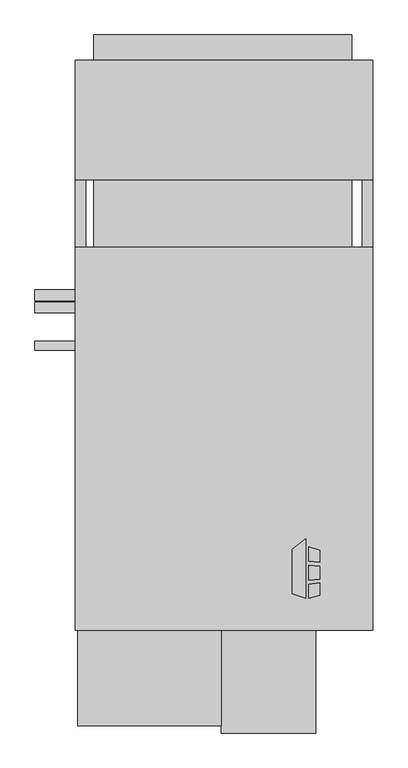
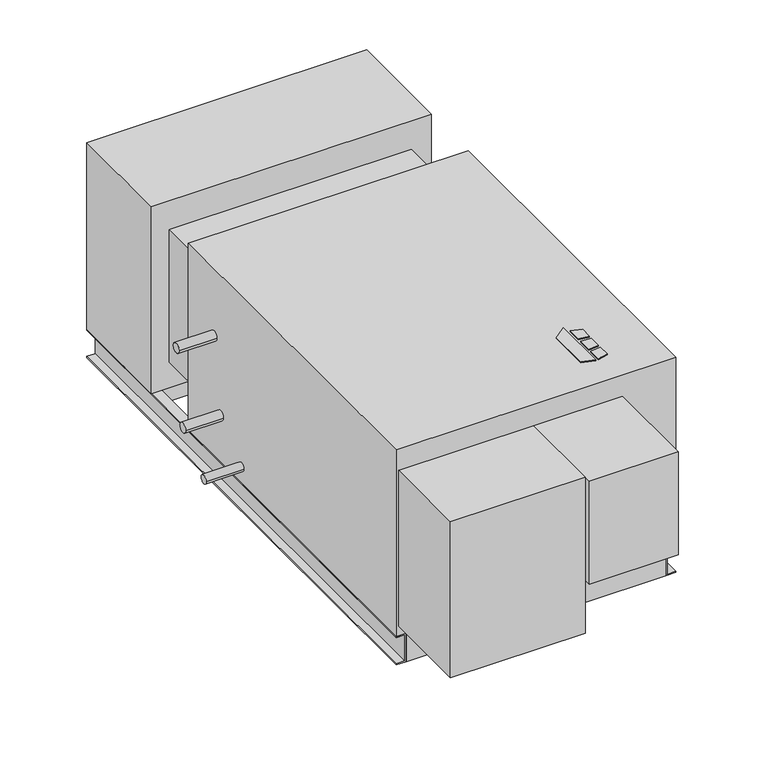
"""IFC4 building model written with IfcOpenShell, lengths in millimetres: proxy geometry, Horizontal_Direct_Drive_Blower_Coil_Unit_-_HDY_-_IEC_-_2-Pipe_Cool-EHeat_NFilterR_W-MixingBox_LH_2022 : Size 06 - 460v/60Hz/3Ph - 8 Row 6.0kW LH."""

from ifc_helpers import new_model, si_unit, point, frame, frame_2d, origin, origin_with_axes, place, context, project, spatial, polyline, circle_curve, trimmed, segment, composite_curve, outline, extrude, source, transform, mapped, element, save


def mechanical_equipment_0df3803a(model_context):
    return source(origin(), model_context, "Body", "SweptSolid", [
        extrude(outline(polyline([(-547.9980239, -229.5578476), (-515.4397272, -204.1205184), (-515.4397272, -346.075), (-547.9980239, -335.8554201), (-547.9980239, -229.5578476)])), origin_with_axes(), (0.0, 0.0, 1.0), 3.175),
        extrude(outline(polyline([(-508.6813942, -257.429852), (-508.6813942, -222.9499379), (-482.6, -231.1365115), (-482.6, -260.6322446), (-508.6813942, -257.429852)])), origin_with_axes(), (0.0, 0.0, 1.0), 3.175),
        extrude(outline(polyline([(-482.6, -339.0865115), (-508.6813942, -346.075), (-508.6813942, -312.8536996), (-482.6, -309.3118564), (-482.6, -339.0865115)])), origin_with_axes(), (0.0, 0.0, 1.0), 3.175),
        extrude(outline(polyline([(-482.6, -269.7138277), (-482.6, -300.963983), (-508.6813942, -303.705248), (-508.6813942, -267.8475378), (-482.6, -269.7138277)])), origin_with_axes(), (0.0, 0.0, 1.0), 3.175),
        extrude(outline(polyline([(-406.4, 837.565), (-406.4, 685.165), (-1022.35, 685.165), (-1022.35, 837.565), (-406.4, 837.565)])), frame((0.0, 0.0, -562.61), z_axis=(0.0, 0.0, 1.0), x_axis=(1.0, 0.0, 0.0)), (0.0, 0.0, 1.0), 60.96),
        extrude(outline(polyline([(-1022.35, 1000.125), (-406.4, 1000.125), (-406.4, 939.165), (-1022.35, 939.165), (-1022.35, 1000.125)])), frame((0.0, 0.0, -228.6), z_axis=(0.0, 0.0, 1.0), x_axis=(1.0, 0.0, 0.0)), (0.0, 0.0, 1.0), 152.4),
        extrude(outline(polyline([(-355.6, 939.165), (-355.6, 654.05), (-1066.8, 654.05), (-1066.8, 939.165), (-355.6, 939.165)])), frame((0.0, 0.0, -501.65), z_axis=(0.0, 0.0, 1.0), x_axis=(1.0, 0.0, 0.0)), (0.0, 0.0, 1.0), 501.65),
        extrude(outline(polyline([(-381.0, -396.875), (-381.0, -422.275), (-1041.4, -422.275), (-1041.4, -396.875), (-381.0, -396.875)])), frame((0.0, 0.0, -577.85), z_axis=(0.0, 0.0, 1.0), x_axis=(1.0, 0.0, 0.0)), (0.0, 0.0, 1.0), 76.2),
        extrude(outline(polyline([(-381.0, 939.165), (-381.0, 913.765), (-1041.4, 913.765), (-1041.4, 939.165), (-381.0, 939.165)])), frame((0.0, 0.0, -577.85), z_axis=(0.0, 0.0, 1.0), x_axis=(1.0, 0.0, 0.0)), (0.0, 0.0, 1.0), 76.2),
        extrude(outline(polyline([(-501.65, -1041.4), (-501.65, -1066.8), (-504.825, -1066.8), (-504.825, -1044.575), (-574.675, -1044.575), (-574.675, -1066.8), (-577.85, -1066.8), (-577.85, -1041.4), (-501.65, -1041.4)])), frame((0.0, -422.275, 0.0), z_axis=(0.0, 1.0, 0.0), x_axis=(0.0, 0.0, 1.0)), (0.0, 0.0, 1.0), 1361.44),
        extrude(outline(polyline([(-501.65, -381.0), (-577.85, -381.0), (-577.85, -355.6), (-574.675, -355.6), (-574.675, -377.825), (-504.825, -377.825), (-504.825, -355.6), (-501.65, -355.6), (-501.65, -381.0)])), frame((0.0, -422.275, 0.0), z_axis=(0.0, 1.0, 0.0), x_axis=(0.0, 0.0, 1.0)), (0.0, 0.0, 1.0), 1361.44),
        extrude(outline(composite_curve([segment(trimmed(circle_curve(frame_2d((377.825, -177.8)), 12.7), [point((365.125, -177.8))], [point((390.525, -177.8))], False, "CARTESIAN"), True, "CONTINUOUS"), segment(trimmed(circle_curve(frame_2d((377.825, -177.8)), 12.7), [point((390.525, -177.8))], [point((365.125, -177.8))], False, "CARTESIAN"), True, "CONTINUOUS")], self_intersect=False)), frame((-1163.1025559, 0.0, 0.0), z_axis=(1.0, 0.0, 0.0), x_axis=(0.0, 1.0, 0.0)), (0.0, 0.0, 1.0), 96.3025559),
        extrude(outline(composite_curve([segment(trimmed(circle_curve(frame_2d((348.9715397, -374.65)), 12.7), [point((336.2715397, -374.65))], [point((361.6715397, -374.65))], False, "CARTESIAN"), True, "CONTINUOUS"), segment(trimmed(circle_curve(frame_2d((348.9715397, -374.65)), 12.7), [point((361.6715397, -374.65))], [point((336.2715397, -374.65))], False, "CARTESIAN"), True, "CONTINUOUS")], self_intersect=False)), frame((-1163.1025559, 0.0, 0.0), z_axis=(1.0, 0.0, 0.0), x_axis=(0.0, 1.0, 0.0)), (0.0, 0.0, 1.0), 96.3025559),
        extrude(outline(composite_curve([segment(trimmed(circle_curve(frame_2d((257.175, -457.2)), 11.1125), [point((246.0625, -457.2))], [point((268.2875, -457.2))], False, "CARTESIAN"), True, "CONTINUOUS"), segment(trimmed(circle_curve(frame_2d((257.175, -457.2)), 11.1125), [point((268.2875, -457.2))], [point((246.0625, -457.2))], False, "CARTESIAN"), True, "CONTINUOUS")], self_intersect=False)), frame((-1163.1025559, 0.0, 0.0), z_axis=(1.0, 0.0, 0.0), x_axis=(0.0, 1.0, 0.0)), (0.0, 0.0, 1.0), 96.3025559),
        extrude(outline(polyline([(-355.6, 492.125), (-355.6, -422.275), (-1066.8, -422.275), (-1066.8, 492.125), (-355.6, 492.125)])), frame((0.0, 0.0, -501.65), z_axis=(0.0, 0.0, 1.0), x_axis=(1.0, 0.0, 0.0)), (0.0, 0.0, 1.0), 501.65),
        extrude(outline(polyline([(-717.55, -650.875), (-1060.45, -650.875), (-1060.45, -422.275), (-717.55, -422.275), (-717.55, -650.875)])), frame((0.0, 0.0, -476.25), z_axis=(0.0, 0.0, 1.0), x_axis=(1.0, 0.0, 0.0)), (0.0, 0.0, 1.0), 419.1),
        extrude(outline(polyline([(-1022.35, 654.05), (-406.4, 654.05), (-406.4, 492.125), (-1022.35, 492.125), (-1022.35, 654.05)])), frame((0.0, 0.0, -431.8), z_axis=(0.0, 0.0, 1.0), x_axis=(1.0, 0.0, 0.0)), (0.0, 0.0, 1.0), 355.6),
        extrude(outline(polyline([(-492.125, -668.3375), (-717.55, -668.3375), (-717.55, -422.275), (-492.125, -422.275), (-492.125, -668.3375)])), frame((0.0, 0.0, -333.375), z_axis=(0.0, 0.0, 1.0), x_axis=(1.0, 0.0, 0.0)), (0.0, 0.0, 1.0), 276.225),
    ])


if __name__ == "__main__":
    model = new_model("IFC4")
    model_context = context("Model", 3, world=origin())
    ifc_project = project(units=[si_unit("LENGTHUNIT", "METRE", prefix="MILLI")], contexts=[model_context])
    site = spatial("IfcSite", under=ifc_project)
    building = spatial("IfcBuilding", under=site)
    placement = place(None, origin())
    mechanical_equipment_shape = mechanical_equipment_0df3803a(model_context)
    element("IfcBuildingElementProxy", 1, Name="Horizontal_Direct_Drive_Blower_Coil_Unit_-_HDY_-_IEC_-_2-Pipe_Cool-EHeat_NFilterR_W-MixingBox_LH_2022 : Size 06 - 460v/60Hz/3Ph - 8 Row 6.0kW LH", ObjectType="Horizontal_Direct_Drive_Blower_Coil_Unit_-_HDY_-_IEC_-_2-Pipe_Cool-EHeat_NFilterR_W-MixingBox_LH_2022 : Size 06 - 460v/60Hz/3Ph - 8 Row 6.0kW LH", at=placement, inside=building, context=model_context, shape_type="MappedRepresentation", body=[
        mapped(mechanical_equipment_shape, transform((0.0, 0.0, 0.0), x_axis=(1.0, 0.0, 0.0), y_axis=(0.0, 1.0, 0.0), z_axis=(0.0, 0.0, 1.0))),
    ])
    save(model, "model.ifc")
